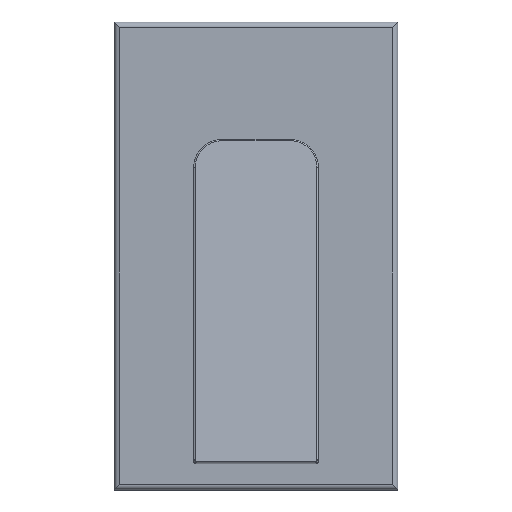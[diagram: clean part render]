
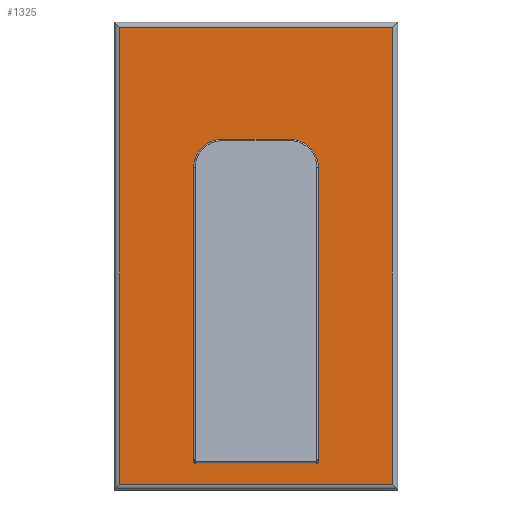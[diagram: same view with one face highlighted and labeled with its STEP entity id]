
A CAD part, top view. The second image highlights one B-rep face of the part: STEP entity #1325.
In plain terms, the highlighted planar face has unit normal (0, 0, 1).
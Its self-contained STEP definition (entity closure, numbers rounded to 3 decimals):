
#445=DIRECTION('',(0.,-1.,0.));
#446=VECTOR('',#445,161.);
#447=CARTESIAN_POINT('',(-48.,80.5,7.));
#448=LINE('',#447,#446);
#449=DIRECTION('',(-1.,0.,0.));
#450=VECTOR('',#449,96.);
#451=CARTESIAN_POINT('',(48.,80.5,7.));
#452=LINE('',#451,#450);
#453=DIRECTION('',(0.,1.,0.));
#454=VECTOR('',#453,161.);
#455=CARTESIAN_POINT('',(48.,-80.5,7.));
#456=LINE('',#455,#454);
#457=DIRECTION('',(1.,0.,0.));
#458=VECTOR('',#457,96.);
#459=CARTESIAN_POINT('',(-48.,-80.5,7.));
#460=LINE('',#459,#458);
#461=CARTESIAN_POINT('',(0.,20.,7.));
#462=DIRECTION('',(0.,0.,-1.));
#463=DIRECTION('',(-1.,0.,0.));
#464=AXIS2_PLACEMENT_3D('',#461,#462,#463);
#466=CARTESIAN_POINT('',(0.,20.,7.));
#467=DIRECTION('',(0.,0.,-1.));
#468=DIRECTION('',(1.,0.,0.));
#469=AXIS2_PLACEMENT_3D('',#466,#467,#468);
#844=CARTESIAN_POINT('',(-20.5,20.,7.));
#846=VERTEX_POINT('',#844);
#848=CARTESIAN_POINT('',(20.5,20.,7.));
#850=VERTEX_POINT('',#848);
#887=CARTESIAN_POINT('',(-48.,80.5,7.));
#888=CARTESIAN_POINT('',(-48.,-80.5,7.));
#889=VERTEX_POINT('',#887);
#890=VERTEX_POINT('',#888);
#893=CARTESIAN_POINT('',(48.,-80.5,7.));
#894=VERTEX_POINT('',#893);
#895=CARTESIAN_POINT('',(48.,80.5,7.));
#896=VERTEX_POINT('',#895);
#1306=CARTESIAN_POINT('',(0.,0.,7.));
#1307=DIRECTION('',(0.,0.,1.));
#1308=DIRECTION('',(0.,-1.,0.));
#1309=AXIS2_PLACEMENT_3D('',#1306,#1307,#1308);
#1310=PLANE('',#1309);
#1312=ORIENTED_EDGE('',*,*,#1311,.F.);
#1313=ORIENTED_EDGE('',*,*,#1284,.F.);
#1314=ORIENTED_EDGE('',*,*,#1296,.F.);
#1316=ORIENTED_EDGE('',*,*,#1315,.F.);
#1317=EDGE_LOOP('',(#1312,#1313,#1314,#1316));
#1318=FACE_OUTER_BOUND('',#1317,.F.);
#1320=ORIENTED_EDGE('',*,*,#1319,.F.);
#1322=ORIENTED_EDGE('',*,*,#1321,.F.);
#1323=EDGE_LOOP('',(#1320,#1322));
#1324=FACE_BOUND('',#1323,.F.);
#1325=ADVANCED_FACE('',(#1318,#1324),#1310,.T.);
#465=CIRCLE('',#464,20.5);
#470=CIRCLE('',#469,20.5);
#1284=EDGE_CURVE('',#896,#889,#452,.T.);
#1296=EDGE_CURVE('',#894,#896,#456,.T.);
#1311=EDGE_CURVE('',#889,#890,#448,.T.);
#1315=EDGE_CURVE('',#890,#894,#460,.T.);
#1319=EDGE_CURVE('',#846,#850,#465,.T.);
#1321=EDGE_CURVE('',#850,#846,#470,.T.);
